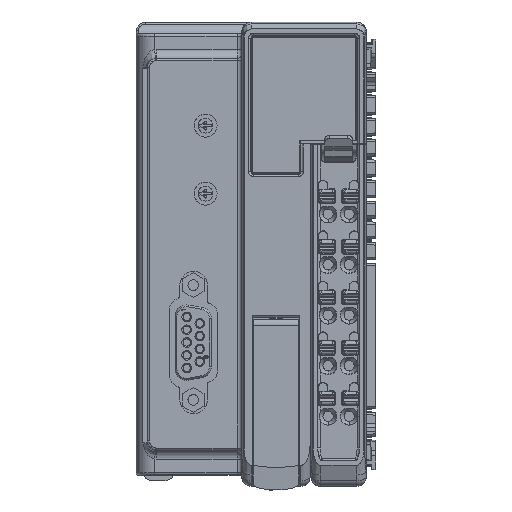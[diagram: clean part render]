
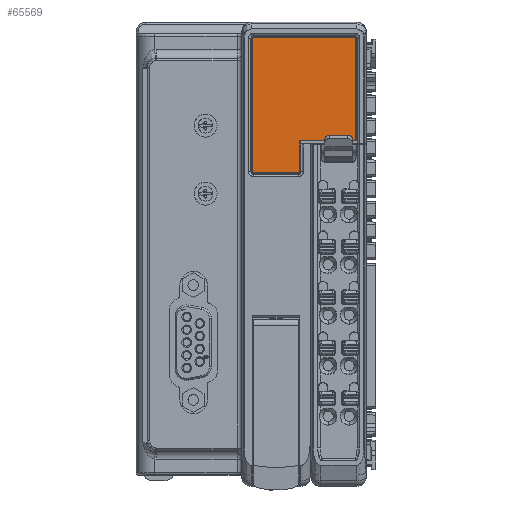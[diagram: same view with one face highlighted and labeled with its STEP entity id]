
A CAD part, top view. The second image highlights one B-rep face of the part: STEP entity #65569.
In plain terms, the highlighted planar face has unit normal (0, 0, 1).
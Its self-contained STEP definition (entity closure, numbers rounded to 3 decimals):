
#19180=CARTESIAN_POINT('',(-26.7,97.5,73.9));
#19181=DIRECTION('',(0.,0.,1.));
#19182=DIRECTION('',(0.,1.,0.));
#19183=AXIS2_PLACEMENT_3D('',#19180,#19181,#19182);
#19185=DIRECTION('',(-1.,0.,0.));
#19186=VECTOR('',#19185,22.1);
#19187=CARTESIAN_POINT('',(-4.6,97.7,73.9));
#19188=LINE('',#19187,#19186);
#19189=CARTESIAN_POINT('',(-4.6,97.5,73.9));
#19190=DIRECTION('',(0.,0.,1.));
#19191=DIRECTION('',(1.,0.,0.));
#19192=AXIS2_PLACEMENT_3D('',#19189,#19190,#19191);
#19194=DIRECTION('',(0.,1.,0.));
#19195=VECTOR('',#19194,22.);
#19196=CARTESIAN_POINT('',(-4.4,75.5,73.9));
#19197=LINE('',#19196,#19195);
#19198=CARTESIAN_POINT('',(-4.6,75.5,73.9));
#19199=DIRECTION('',(0.,0.,1.));
#19200=DIRECTION('',(0.,-1.,0.));
#19201=AXIS2_PLACEMENT_3D('',#19198,#19199,#19200);
#19203=DIRECTION('',(1.,0.,0.));
#19204=VECTOR('',#19203,11.65);
#19205=CARTESIAN_POINT('',(-16.25,75.3,73.9));
#19206=LINE('',#19205,#19204);
#19207=CARTESIAN_POINT('',(-16.25,74.9,73.9));
#19208=DIRECTION('',(0.,0.,-1.));
#19209=DIRECTION('',(-1.,0.,0.));
#19210=AXIS2_PLACEMENT_3D('',#19207,#19208,#19209);
#19212=DIRECTION('',(0.,1.,0.));
#19213=VECTOR('',#19212,6.5);
#19214=CARTESIAN_POINT('',(-16.65,68.4,73.9));
#19215=LINE('',#19214,#19213);
#19216=CARTESIAN_POINT('',(-16.85,68.4,73.9));
#19217=DIRECTION('',(0.,0.,1.));
#19218=DIRECTION('',(0.,-1.,0.));
#19219=AXIS2_PLACEMENT_3D('',#19216,#19217,#19218);
#19221=DIRECTION('',(1.,0.,0.));
#19222=VECTOR('',#19221,9.85);
#19223=CARTESIAN_POINT('',(-26.7,68.2,73.9));
#19224=LINE('',#19223,#19222);
#19225=CARTESIAN_POINT('',(-26.7,68.4,73.9));
#19226=DIRECTION('',(0.,0.,1.));
#19227=DIRECTION('',(-1.,0.,0.));
#19228=AXIS2_PLACEMENT_3D('',#19225,#19226,#19227);
#19230=DIRECTION('',(0.,-1.,0.));
#19231=VECTOR('',#19230,29.1);
#19232=CARTESIAN_POINT('',(-26.9,97.5,73.9));
#19233=LINE('',#19232,#19231);
#36854=CARTESIAN_POINT('',(-26.7,97.7,73.9));
#36855=CARTESIAN_POINT('',(-26.9,97.5,73.9));
#36856=VERTEX_POINT('',#36854);
#36857=VERTEX_POINT('',#36855);
#36858=CARTESIAN_POINT('',(-26.9,68.4,73.9));
#36859=VERTEX_POINT('',#36858);
#36860=CARTESIAN_POINT('',(-26.7,68.2,73.9));
#36861=VERTEX_POINT('',#36860);
#36862=CARTESIAN_POINT('',(-16.85,68.2,73.9));
#36863=VERTEX_POINT('',#36862);
#36864=CARTESIAN_POINT('',(-16.65,68.4,73.9));
#36865=VERTEX_POINT('',#36864);
#36866=CARTESIAN_POINT('',(-16.65,74.9,73.9));
#36867=VERTEX_POINT('',#36866);
#36868=CARTESIAN_POINT('',(-4.4,75.5,73.9));
#36869=CARTESIAN_POINT('',(-4.4,97.5,73.9));
#36870=VERTEX_POINT('',#36868);
#36871=VERTEX_POINT('',#36869);
#36872=CARTESIAN_POINT('',(-4.6,97.7,73.9));
#36873=VERTEX_POINT('',#36872);
#36874=CARTESIAN_POINT('',(-16.25,75.3,73.9));
#36875=CARTESIAN_POINT('',(-4.6,75.3,73.9));
#36876=VERTEX_POINT('',#36874);
#36877=VERTEX_POINT('',#36875);
#65550=CARTESIAN_POINT('',(-2.1,0.,73.9));
#65551=DIRECTION('',(0.,0.,1.));
#65552=DIRECTION('',(1.,0.,0.));
#65553=AXIS2_PLACEMENT_3D('',#65550,#65551,#65552);
#65554=PLANE('',#65553);
#65555=ORIENTED_EDGE('',*,*,#64109,.F.);
#65556=ORIENTED_EDGE('',*,*,#64123,.F.);
#65557=ORIENTED_EDGE('',*,*,#64137,.F.);
#65558=ORIENTED_EDGE('',*,*,#64167,.F.);
#65559=ORIENTED_EDGE('',*,*,#64285,.F.);
#65560=ORIENTED_EDGE('',*,*,#64333,.F.);
#65561=ORIENTED_EDGE('',*,*,#65489,.F.);
#65562=ORIENTED_EDGE('',*,*,#65503,.F.);
#65563=ORIENTED_EDGE('',*,*,#65517,.F.);
#65564=ORIENTED_EDGE('',*,*,#65531,.F.);
#65565=ORIENTED_EDGE('',*,*,#65544,.F.);
#65566=ORIENTED_EDGE('',*,*,#64093,.F.);
#65567=EDGE_LOOP('',(#65555,#65556,#65557,#65558,#65559,#65560,#65561,#65562,
#65563,#65564,#65565,#65566));
#65568=FACE_OUTER_BOUND('',#65567,.F.);
#65569=ADVANCED_FACE('',(#65568),#65554,.T.);
#19184=CIRCLE('',#19183,0.2);
#19193=CIRCLE('',#19192,0.2);
#19202=CIRCLE('',#19201,0.2);
#19211=CIRCLE('',#19210,0.4);
#19220=CIRCLE('',#19219,0.2);
#19229=CIRCLE('',#19228,0.2);
#64093=EDGE_CURVE('',#36857,#36859,#19233,.T.);
#64109=EDGE_CURVE('',#36856,#36857,#19184,.T.);
#64123=EDGE_CURVE('',#36873,#36856,#19188,.T.);
#64137=EDGE_CURVE('',#36871,#36873,#19193,.T.);
#64167=EDGE_CURVE('',#36870,#36871,#19197,.T.);
#64285=EDGE_CURVE('',#36877,#36870,#19202,.T.);
#64333=EDGE_CURVE('',#36876,#36877,#19206,.T.);
#65489=EDGE_CURVE('',#36867,#36876,#19211,.T.);
#65503=EDGE_CURVE('',#36865,#36867,#19215,.T.);
#65517=EDGE_CURVE('',#36863,#36865,#19220,.T.);
#65531=EDGE_CURVE('',#36861,#36863,#19224,.T.);
#65544=EDGE_CURVE('',#36859,#36861,#19229,.T.);
